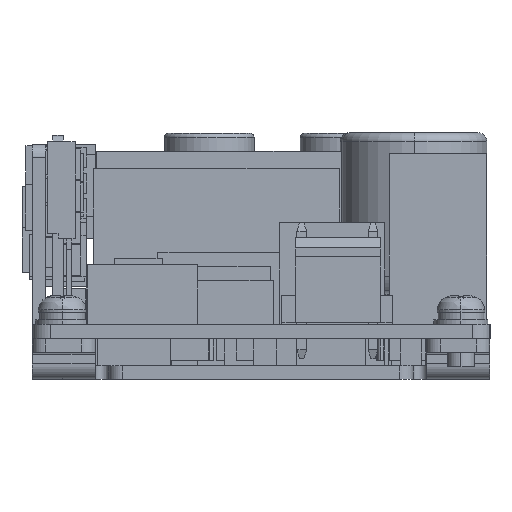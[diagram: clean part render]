
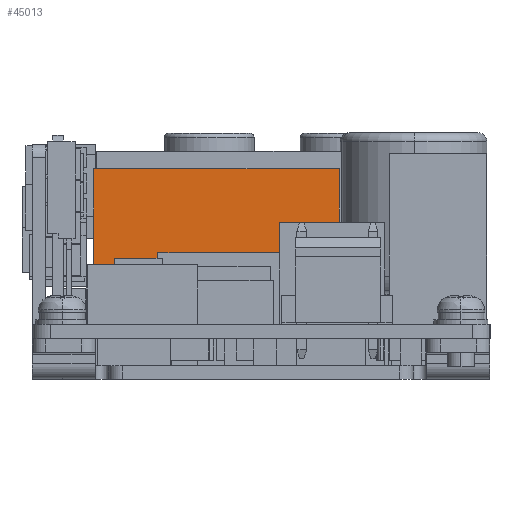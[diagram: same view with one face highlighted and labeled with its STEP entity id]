
A CAD part, left-side view. The second image highlights one B-rep face of the part: STEP entity #45013.
In plain terms, the highlighted planar face has unit normal (-1, 0, 0).
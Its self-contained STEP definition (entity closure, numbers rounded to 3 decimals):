
#44901 = VERTEX_POINT('',#44902);
#44902 = CARTESIAN_POINT('',(24.45,40.85,1.6));
#44908 = EDGE_CURVE('',#44901,#44909,#44911,.T.);
#44909 = VERTEX_POINT('',#44910);
#44910 = CARTESIAN_POINT('',(24.45,13.55,1.6));
#44911 = LINE('',#44912,#44913);
#44912 = CARTESIAN_POINT('',(24.45,40.85,1.6));
#44913 = VECTOR('',#44914,1.);
#44914 = DIRECTION('',(0.,-1.,0.));
#44948 = VERTEX_POINT('',#44949);
#44949 = CARTESIAN_POINT('',(24.45,40.85,18.882));
#44955 = EDGE_CURVE('',#44901,#44948,#44956,.T.);
#44956 = LINE('',#44957,#44958);
#44957 = CARTESIAN_POINT('',(24.45,40.85,1.6));
#44958 = VECTOR('',#44959,1.);
#44959 = DIRECTION('',(0.,0.,1.));
#44994 = EDGE_CURVE('',#44909,#44995,#44997,.T.);
#44995 = VERTEX_POINT('',#44996);
#44996 = CARTESIAN_POINT('',(24.45,13.55,18.882));
#44997 = LINE('',#44998,#44999);
#44998 = CARTESIAN_POINT('',(24.45,13.55,1.6));
#44999 = VECTOR('',#45000,1.);
#45000 = DIRECTION('',(0.,0.,1.));
#45013 = ADVANCED_FACE('',(#45014),#45025,.T.);
#45014 = FACE_BOUND('',#45015,.F.);
#45015 = EDGE_LOOP('',(#45016,#45017,#45018,#45024));
#45016 = ORIENTED_EDGE('',*,*,#44908,.F.);
#45017 = ORIENTED_EDGE('',*,*,#44955,.T.);
#45018 = ORIENTED_EDGE('',*,*,#45019,.T.);
#45019 = EDGE_CURVE('',#44948,#44995,#45020,.T.);
#45020 = LINE('',#45021,#45022);
#45021 = CARTESIAN_POINT('',(24.45,40.85,18.882));
#45022 = VECTOR('',#45023,1.);
#45023 = DIRECTION('',(0.,-1.,0.));
#45024 = ORIENTED_EDGE('',*,*,#44994,.F.);
#45025 = PLANE('',#45026);
#45026 = AXIS2_PLACEMENT_3D('',#45027,#45028,#45029);
#45027 = CARTESIAN_POINT('',(24.45,40.85,1.6));
#45028 = DIRECTION('',(-1.,0.,0.));
#45029 = DIRECTION('',(0.,-1.,0.));
